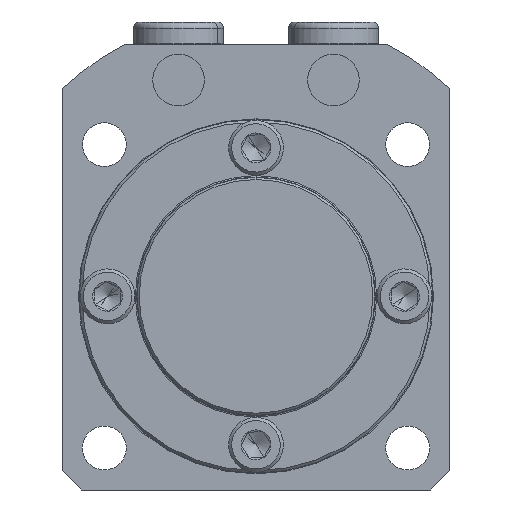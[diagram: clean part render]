
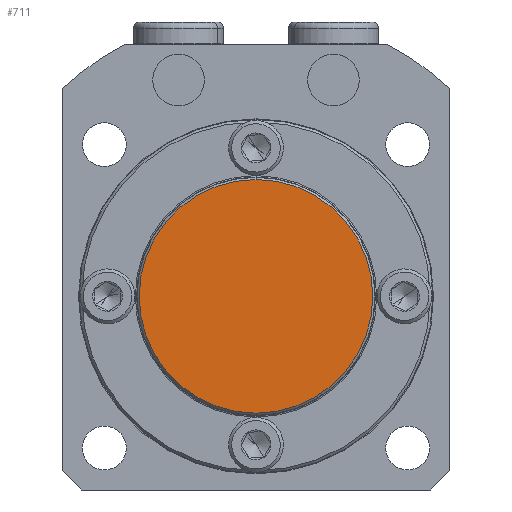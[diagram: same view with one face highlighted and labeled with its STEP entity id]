
A CAD part, front view. The second image highlights one B-rep face of the part: STEP entity #711.
In plain terms, the highlighted planar face has unit normal (0, -1, 0).
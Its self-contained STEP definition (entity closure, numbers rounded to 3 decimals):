
#130 = EDGE_LOOP ( 'NONE', ( #2851, #2852 ) ) ;
#711 = ADVANCED_FACE ( 'NONE', ( #1754 ), #1755, .T. ) ;
#1746 = CARTESIAN_POINT ( 'NONE',  ( 0., -10., 0. ) ) ;
#1754 = FACE_OUTER_BOUND ( 'NONE', #130, .T. ) ;
#1755 = PLANE ( 'NONE',  #5912 ) ;
#1758 = DIRECTION ( 'NONE',  ( 0., -1., 0. ) ) ;
#1759 = DIRECTION ( 'NONE',  ( 0., 0., -1. ) ) ;
#2226 = EDGE_CURVE ( 'NONE', #4393, #4396, #6294, .T. ) ;
#2272 = EDGE_CURVE ( 'NONE', #4396, #4393, #6371, .T. ) ;
#2851 = ORIENTED_EDGE ( 'NONE', *, *, #2272, .T. ) ;
#2852 = ORIENTED_EDGE ( 'NONE', *, *, #2226, .T. ) ;
#3295 = CARTESIAN_POINT ( 'NONE',  ( 0., -10., -18.1 ) ) ;
#3298 = CARTESIAN_POINT ( 'NONE',  ( 0., -10., 18.1 ) ) ;
#4393 = VERTEX_POINT ( 'NONE', #3295 ) ;
#4396 = VERTEX_POINT ( 'NONE', #3298 ) ;
#5912 = AXIS2_PLACEMENT_3D ( 'NONE', #1746, #1758, #1759 ) ;
#6264 = CARTESIAN_POINT ( 'NONE',  ( 0., -10., 0. ) ) ;
#6265 = DIRECTION ( 'NONE',  ( 0., -1., 0. ) ) ;
#6266 = DIRECTION ( 'NONE',  ( 0., 0., -1. ) ) ;
#6294 = CIRCLE ( 'NONE', #6300, 18.1 ) ;
#6300 = AXIS2_PLACEMENT_3D ( 'NONE', #6264, #6265, #6266 ) ;
#6371 = CIRCLE ( 'NONE', #6374, 18.1 ) ;
#6374 = AXIS2_PLACEMENT_3D ( 'NONE', #6675, #6676, #6677 ) ;
#6675 = CARTESIAN_POINT ( 'NONE',  ( 0., -10., 0. ) ) ;
#6676 = DIRECTION ( 'NONE',  ( 0., -1., 0. ) ) ;
#6677 = DIRECTION ( 'NONE',  ( 0., 0., -1. ) ) ;
